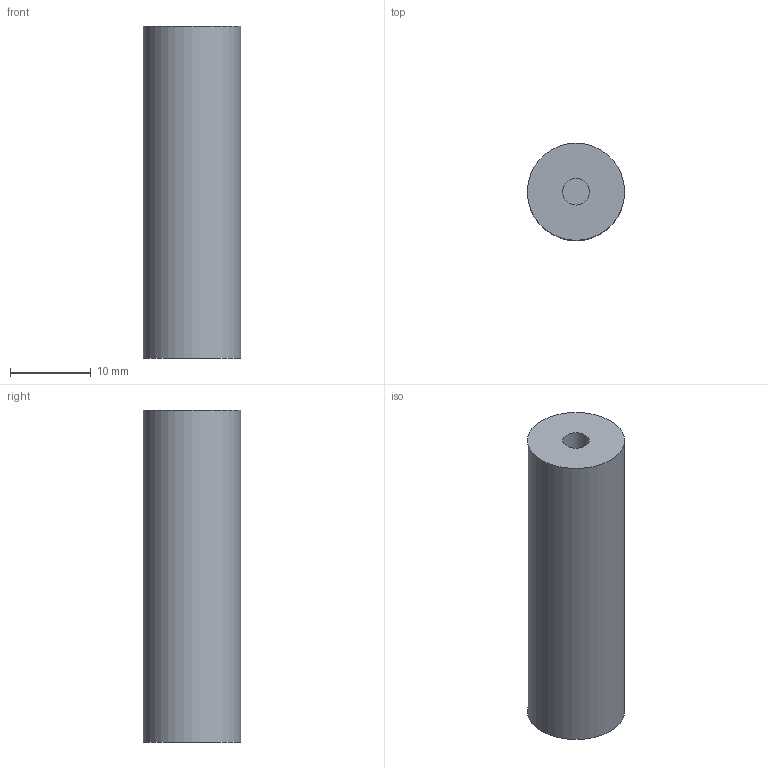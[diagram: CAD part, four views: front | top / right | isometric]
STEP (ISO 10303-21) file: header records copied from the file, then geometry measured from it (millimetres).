
FILE_DESCRIPTION(('Open CASCADE Model'),'2;1');
FILE_NAME('Open CASCADE Shape Model','2026-11-05T14:04:51',('Author'),( 'Open CASCADE'),'Open CASCADE STEP processor 7.8','Open CASCADE 7.8' ,'Unknown');
FILE_SCHEMA(('AUTOMOTIVE_DESIGN { 1 0 10303 214 1 1 1 1 }'));
Length unit declared in the file: millimetre
Products named in the file (1): Open CASCADE STEP translator 7.8 2
Bounding box: 12 x 12 x 41 mm (x, y, z)
Volume: 4411.5 mm3; surface area: 1980.5 mm2
Topology: 1 solids, 1 shells, 7 faces, 9 edges, 6 vertices
Faces by surface type: plane 4, cylinder 3
Full cylindrical faces by diameter (mm): 3.3 x1, 5 x1, 12 x1
Entity records: 279 total; most frequent: DIRECTION 48, CARTESIAN_POINT 47, ORIENTED_EDGE 18, PCURVE 18, DEFINITIONAL_REPRESENTATION 18, LINE 15, VECTOR 15, AXIS2_PLACEMENT_3D 14
